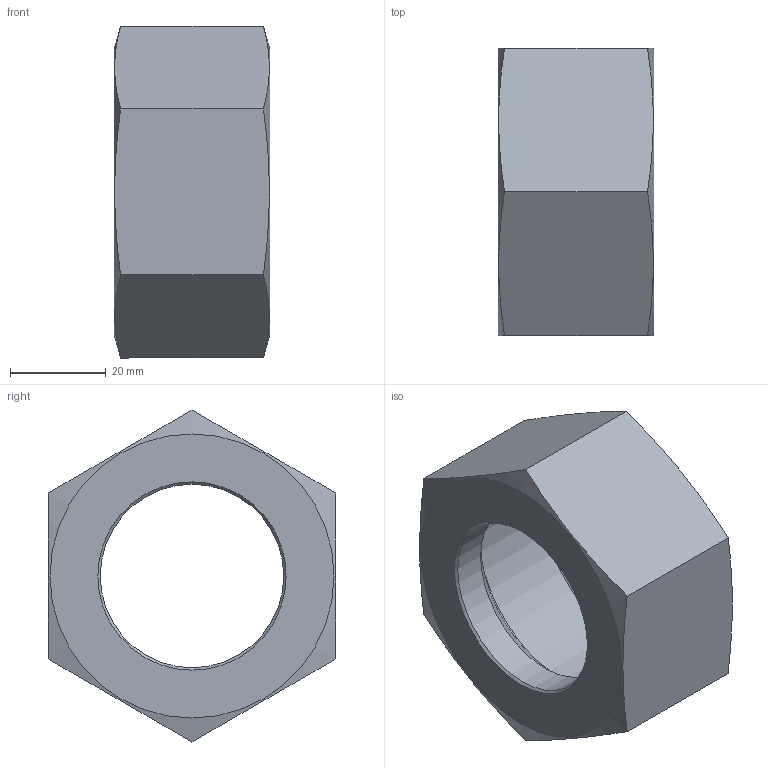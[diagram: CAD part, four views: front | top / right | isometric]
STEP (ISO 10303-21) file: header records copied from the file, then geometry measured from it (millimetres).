
FILE_DESCRIPTION( ( 'Unknown' ), '1' );
FILE_NAME( 'C:/Users/p.nanko/Desktop/3D SR/M38S.stp', 'Unknown', ( 'Peter Nanko' ), ( 'Armaturen Arndt' ), 'PSStep 14.0', 'Solid Edge ST4', ' ' );
FILE_SCHEMA( ( 'AUTOMOTIVE_DESIGN { 1 0 10303 214 1 1 1 1 }' ) );
Length unit declared in the file: millimetre
Products named in the file (1): 1
Bounding box: 32.5 x 60 x 69.28 mm (x, y, z)
Volume: 44958.4 mm3; surface area: 14865.3 mm2
Topology: 1 solids, 1 shells, 17 faces, 39 edges, 25 vertices
Faces by surface type: plane 9, cone 5, cylinder 3
Full cylindrical faces by diameter (mm): 38.3 x1, 49.835 x2
Entity records: 644 total; most frequent: CARTESIAN_POINT 168, DIRECTION 62, ORIENTED_EDGE 56, AXIS2_PLACEMENT_3D 28, EDGE_LOOP 28, EDGE_CURVE 28, VERTEX_POINT 22, FACE_OUTER_BOUND 20
